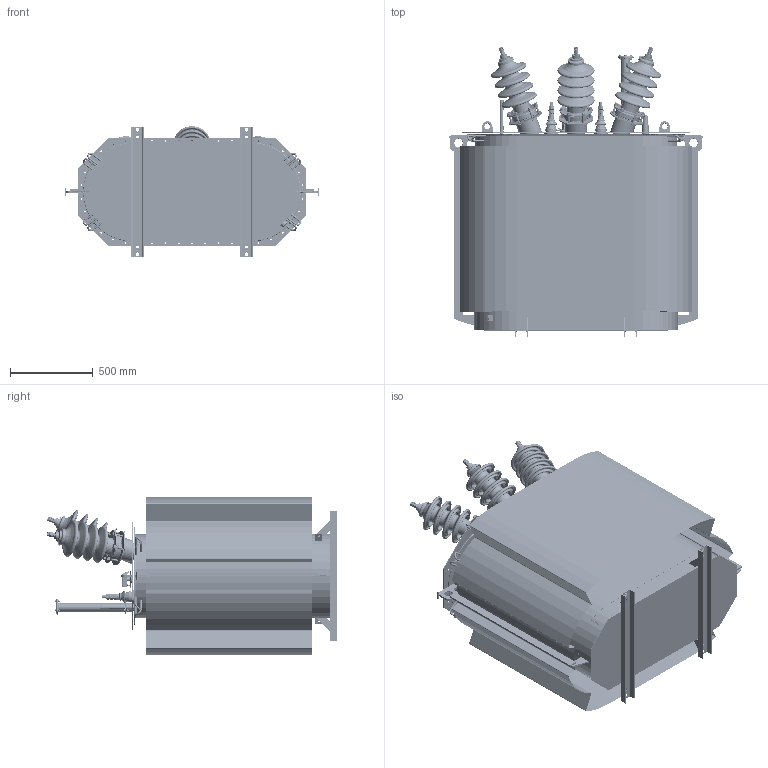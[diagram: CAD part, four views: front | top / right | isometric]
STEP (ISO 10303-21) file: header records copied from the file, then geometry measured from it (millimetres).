
FILE_DESCRIPTION(/* description */ (''),/* implementation_level */ '2;1');
FILE_NAME(/* name */ 'D:\ТМГ11-400-35\ТМГ11-400-35.stp',/* time_stamp */ '2020-01-08T14:13:05+03:00',/* author */ ('56691'),/* organization */ (''),/* preprocessor_version */ 'ST-DEVELOPER v15.2',/* originating_system */ 'Autodesk Inventor 2014',/* authorisation */ '');
FILE_SCHEMA (('AUTOMOTIVE_DESIGN { 1 0 10303 214 3 1 1 }'));
Products named in the file (1): сборка
Bounding box: 1539.8 x 1755.58 x 958 mm (x, y, z)
Volume: 14360408.7 mm3; surface area: 19075905.4 mm2
Topology: 65 solids, 87 shells, 6021 faces, 15440 edges, 9918 vertices
Faces by surface type: plane 3184, cylinder 1244, bspline 850, torus 403, cone 312, sphere 28
Full cylindrical faces by diameter (mm): 0.5 x1, 1.5 x3, 1.6 x6, 1.827 x2, 3.1 x2, 4 x2, 4.134 x1, 4.917 x5, 4.95 x1, 5 x1, 5.94 x4, 6 x12, 6.2 x5, 6.4 x3, 6.5 x1, 7 x1, 7.1 x2, 7.5 x1, 7.92 x6, 8 x13, 8.4 x12, 8.5 x6, 9 x8, 10 x4, 10.8 x16, 11 x42, 11.88 x18, 12 x36, 12.5 x3, 13 x22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
Entity records: 190136 total; most frequent: CARTESIAN_POINT 50112, ORIENTED_EDGE 28046, DIRECTION 25006, EDGE_CURVE 13886, VERTEX_POINT 9597, AXIS2_PLACEMENT_3D 8794, EDGE_LOOP 8136, LINE 7418
